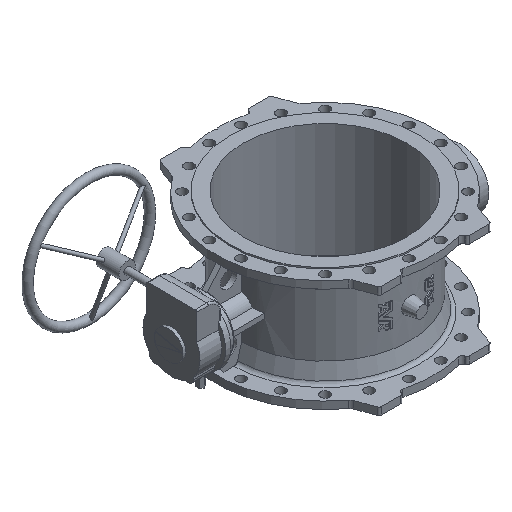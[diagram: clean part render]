
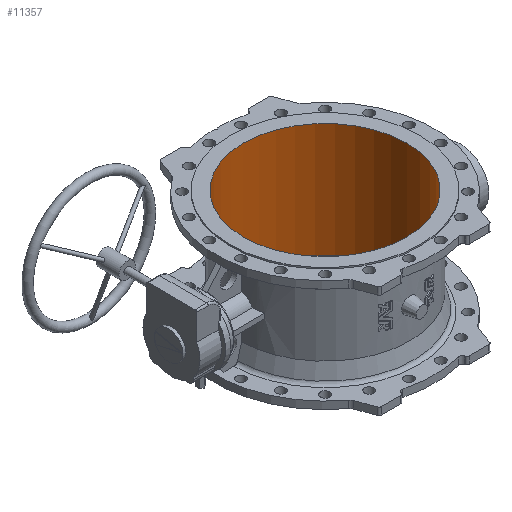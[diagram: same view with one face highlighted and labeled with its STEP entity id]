
A CAD part, isometric view. The second image highlights one B-rep face of the part: STEP entity #11357.
In plain terms, the highlighted cylindrical face has radius 250 mm (diameter 500 mm), a full revolution.
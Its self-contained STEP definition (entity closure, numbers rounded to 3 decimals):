
#1902 = CIRCLE ( 'NONE', #14411, 250. ) ;
#1904 = CIRCLE ( 'NONE', #14413, 250. ) ;
#2071 = VERTEX_POINT ( 'NONE', #10898 ) ;
#2073 = VERTEX_POINT ( 'NONE', #10900 ) ;
#2300 = EDGE_LOOP ( 'NONE', ( #20092 ) ) ;
#2301 = EDGE_LOOP ( 'NONE', ( #20091 ) ) ;
#9903 = CARTESIAN_POINT ( 'NONE',  ( 0., 0., -175. ) ) ;
#9904 = DIRECTION ( 'NONE',  ( 0., 0., -1. ) ) ;
#9905 = DIRECTION ( 'NONE',  ( -1., 0., 0. ) ) ;
#9910 = CARTESIAN_POINT ( 'NONE',  ( 0., 0., 175. ) ) ;
#9911 = DIRECTION ( 'NONE',  ( 0., 0., -1. ) ) ;
#9912 = DIRECTION ( 'NONE',  ( -1., 0., 0. ) ) ;
#10898 = CARTESIAN_POINT ( 'NONE',  ( -250., 0., -175. ) ) ;
#10900 = CARTESIAN_POINT ( 'NONE',  ( -250., 0., 175. ) ) ;
#11357 = ADVANCED_FACE ( 'NONE', ( #12616, #12621 ), #12623, .F. ) ;
#12616 = FACE_OUTER_BOUND ( 'NONE', #2301, .T. ) ;
#12621 = FACE_OUTER_BOUND ( 'NONE', #2300, .T. ) ;
#12623 = CYLINDRICAL_SURFACE ( 'NONE', #13971, 250. ) ;
#13971 = AXIS2_PLACEMENT_3D ( 'NONE', #21454, #21455, #21453 ) ;
#14411 = AXIS2_PLACEMENT_3D ( 'NONE', #9903, #9904, #9905 ) ;
#14413 = AXIS2_PLACEMENT_3D ( 'NONE', #9910, #9911, #9912 ) ;
#20091 = ORIENTED_EDGE ( 'NONE', *, *, #22831, .T. ) ;
#20092 = ORIENTED_EDGE ( 'NONE', *, *, #22833, .F. ) ;
#21453 = DIRECTION ( 'NONE',  ( 1., 0., 0. ) ) ;
#21454 = CARTESIAN_POINT ( 'NONE',  ( 0., 0., 175. ) ) ;
#21455 = DIRECTION ( 'NONE',  ( 0., 0., -1. ) ) ;
#22831 = EDGE_CURVE ( 'NONE', #2071, #2071, #1902, .T. ) ;
#22833 = EDGE_CURVE ( 'NONE', #2073, #2073, #1904, .T. ) ;
